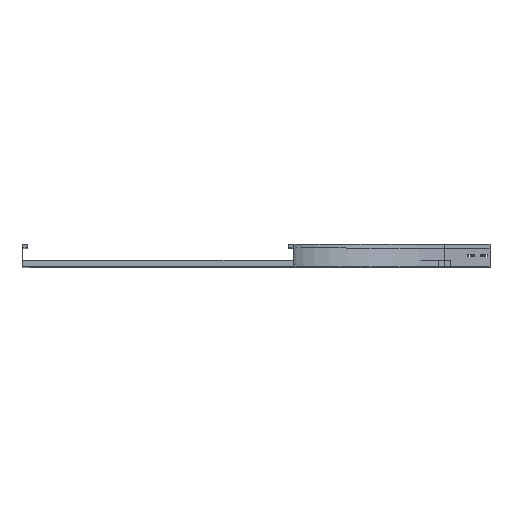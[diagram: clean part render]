
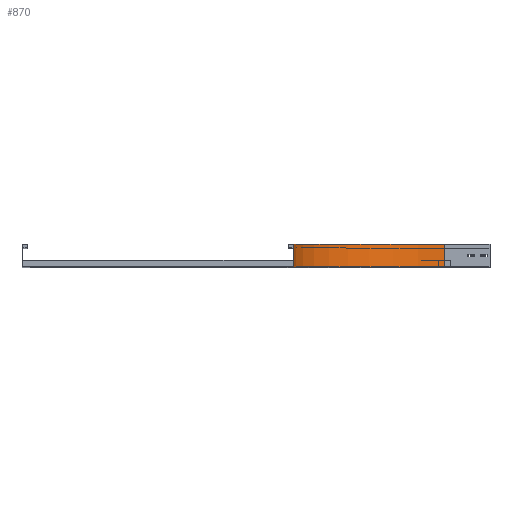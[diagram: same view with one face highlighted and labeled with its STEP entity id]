
A CAD part, top view. The second image highlights one B-rep face of the part: STEP entity #870.
In plain terms, the highlighted cylindrical face has radius 500 mm (diameter 1000 mm), a partial arc.
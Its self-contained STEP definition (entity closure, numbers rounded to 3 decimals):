
#93 = CARTESIAN_POINT ( 'NONE',  ( 500., 0., -650. ) ) ;
#177 = ORIENTED_EDGE ( 'NONE', *, *, #2588, .T. ) ;
#314 = CARTESIAN_POINT ( 'NONE',  ( 0., 0., -150. ) ) ;
#531 = VERTEX_POINT ( 'NONE', #2105 ) ;
#689 = DIRECTION ( 'NONE',  ( 0., 1., 0. ) ) ;
#792 = FACE_OUTER_BOUND ( 'NONE', #3987, .T. ) ;
#870 = ADVANCED_FACE ( 'NONE', ( #792 ), #1435, .F. ) ;
#952 = LINE ( 'NONE', #314, #3125 ) ;
#1103 = DIRECTION ( 'NONE',  ( 0., 0., -1. ) ) ;
#1138 = AXIS2_PLACEMENT_3D ( 'NONE', #2750, #4061, #1103 ) ;
#1152 = EDGE_CURVE ( 'NONE', #531, #1707, #3191, .T. ) ;
#1158 = VECTOR ( 'NONE', #689, 1000. ) ;
#1392 = EDGE_CURVE ( 'NONE', #3531, #531, #952, .T. ) ;
#1435 = CYLINDRICAL_SURFACE ( 'NONE', #1138, 500. ) ;
#1457 = CARTESIAN_POINT ( 'NONE',  ( 500., 75., -650. ) ) ;
#1564 = EDGE_CURVE ( 'NONE', #3851, #1707, #4047, .T. ) ;
#1707 = VERTEX_POINT ( 'NONE', #1457 ) ;
#1932 = ORIENTED_EDGE ( 'NONE', *, *, #1392, .F. ) ;
#2035 = AXIS2_PLACEMENT_3D ( 'NONE', #3384, #3014, #2372 ) ;
#2087 = CARTESIAN_POINT ( 'NONE',  ( 500., 0., -650. ) ) ;
#2105 = CARTESIAN_POINT ( 'NONE',  ( 0., 75., -150. ) ) ;
#2108 = CARTESIAN_POINT ( 'NONE',  ( 0., 0., -150. ) ) ;
#2372 = DIRECTION ( 'NONE',  ( -1., 0., 0. ) ) ;
#2588 = EDGE_CURVE ( 'NONE', #3531, #3851, #4138, .T. ) ;
#2750 = CARTESIAN_POINT ( 'NONE',  ( 500., 0., -150. ) ) ;
#2884 = AXIS2_PLACEMENT_3D ( 'NONE', #3578, #2919, #2892 ) ;
#2892 = DIRECTION ( 'NONE',  ( -1., 0., 0. ) ) ;
#2914 = ORIENTED_EDGE ( 'NONE', *, *, #1564, .T. ) ;
#2919 = DIRECTION ( 'NONE',  ( 0., -1., 0. ) ) ;
#3014 = DIRECTION ( 'NONE',  ( 0., -1., 0. ) ) ;
#3125 = VECTOR ( 'NONE', #4266, 1000. ) ;
#3191 = CIRCLE ( 'NONE', #2035, 500. ) ;
#3384 = CARTESIAN_POINT ( 'NONE',  ( 500., 75., -150. ) ) ;
#3531 = VERTEX_POINT ( 'NONE', #2108 ) ;
#3554 = ORIENTED_EDGE ( 'NONE', *, *, #1152, .F. ) ;
#3578 = CARTESIAN_POINT ( 'NONE',  ( 500., 0., -150. ) ) ;
#3851 = VERTEX_POINT ( 'NONE', #93 ) ;
#3987 = EDGE_LOOP ( 'NONE', ( #3554, #1932, #177, #2914 ) ) ;
#4047 = LINE ( 'NONE', #2087, #1158 ) ;
#4061 = DIRECTION ( 'NONE',  ( 0., -1., 0. ) ) ;
#4138 = CIRCLE ( 'NONE', #2884, 500. ) ;
#4266 = DIRECTION ( 'NONE',  ( 0., 1., 0. ) ) ;
